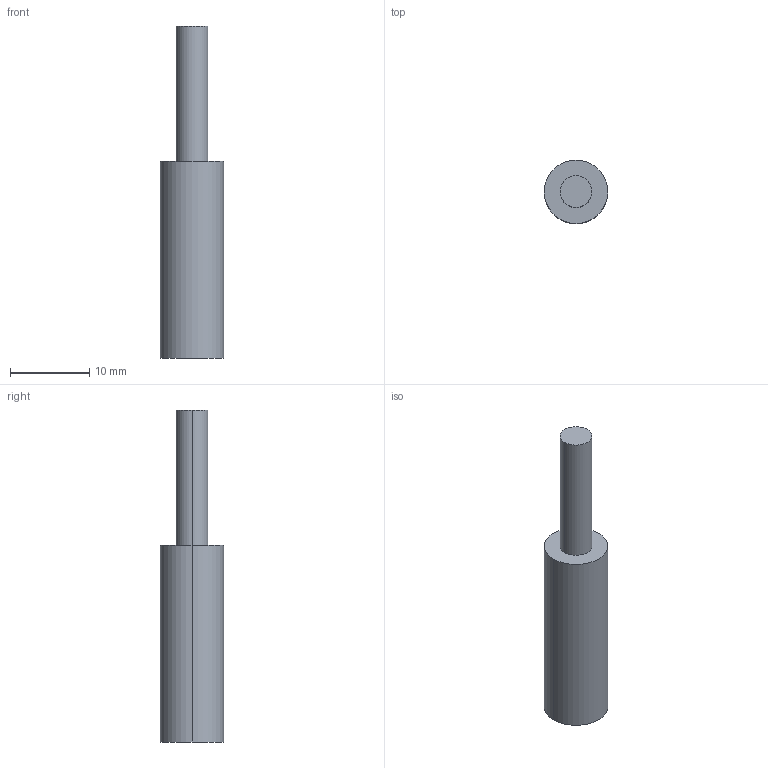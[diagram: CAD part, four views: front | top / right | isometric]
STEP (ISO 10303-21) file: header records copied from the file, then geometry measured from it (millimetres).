
FILE_DESCRIPTION (( 'STEP AP203' ), '1' );
FILE_NAME ('stepper-to-pinion-shaft.STEP', '2024-07-01T06:54:48', ( '' ), ( '' ), 'SwSTEP 2.0', 'SolidWorks 2021', '' );
FILE_SCHEMA (( 'CONFIG_CONTROL_DESIGN' ));
Length unit declared in the file: millimetre
Products named in the file (1): stepper-to-pinion-shaft
Bounding box: 8 x 8 x 41.8 mm (x, y, z)
Volume: 1067.5 mm3; surface area: 1251.6 mm2
Topology: 1 solids, 1 shells, 10 faces, 18 edges, 12 vertices
Faces by surface type: cylinder 6, plane 4
Entity records: 331 total; most frequent: DIRECTION 52, CARTESIAN_POINT 41, ORIENTED_EDGE 36, AXIS2_PLACEMENT_3D 23, EDGE_CURVE 18, VERTEX_POINT 12, EDGE_LOOP 12, CIRCLE 12
